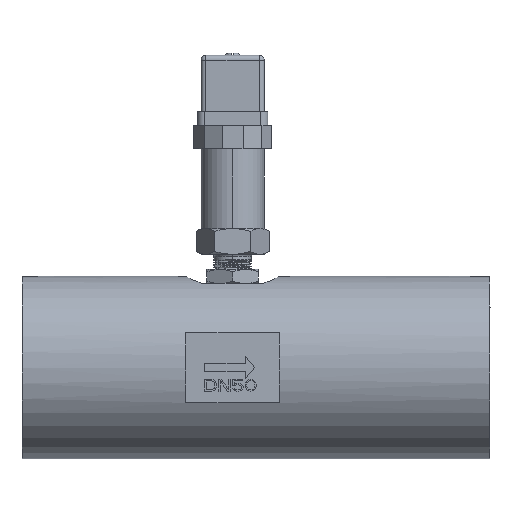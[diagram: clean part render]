
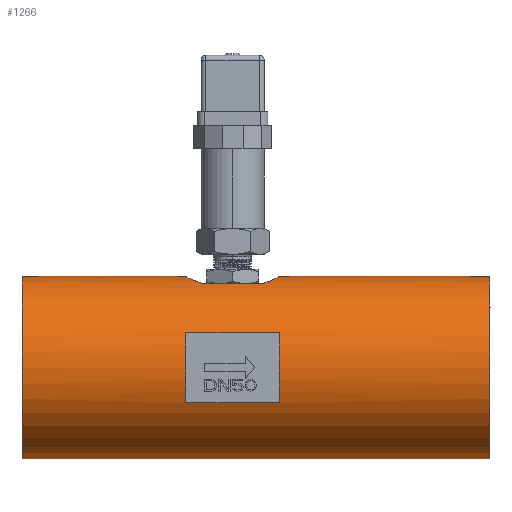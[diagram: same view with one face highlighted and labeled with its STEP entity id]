
A CAD part, left-side view. The second image highlights one B-rep face of the part: STEP entity #1266.
In plain terms, the highlighted cylindrical face has radius 39 mm (diameter 78 mm), a full revolution.
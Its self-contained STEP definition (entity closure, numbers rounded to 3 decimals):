
#212=B_SPLINE_CURVE_WITH_KNOTS('',3,(#17023,#17024,#17025,#17026,#17027,
#17028,#17029,#17030,#17031,#17032),.UNSPECIFIED.,.F.,.F.,(4,2,2,2,4),(0.,
0.25,0.5,0.75,1.),.UNSPECIFIED.);
#265=B_SPLINE_CURVE_WITH_KNOTS('',3,(#19977,#19978,#19979,#19980,#19981,
#19982,#19983,#19984,#19985,#19986),.UNSPECIFIED.,.F.,.F.,(4,2,2,2,4),(0.,
0.25,0.5,0.75,1.),.UNSPECIFIED.);
#409=CYLINDRICAL_SURFACE('',#10240,39.);
#1266=ADVANCED_FACE('',(#2040,#2041,#2042,#2043,#2044),#409,.T.);
#1970=CIRCLE('',#10233,39.);
#1971=CIRCLE('',#10235,39.);
#1972=CIRCLE('',#10236,39.);
#1973=CIRCLE('',#10237,39.);
#1974=CIRCLE('',#10238,39.);
#1975=CIRCLE('',#10239,39.);
#2040=FACE_BOUND('',#2462,.T.);
#2041=FACE_BOUND('',#2463,.T.);
#2042=FACE_BOUND('',#2464,.T.);
#2043=FACE_BOUND('',#2465,.T.);
#2044=FACE_BOUND('',#2466,.T.);
#2462=EDGE_LOOP('',(#4570));
#2463=EDGE_LOOP('',(#4571));
#2464=EDGE_LOOP('',(#4572,#4573,#4574,#4575));
#2465=EDGE_LOOP('',(#4576,#4577,#4578,#4579));
#2466=EDGE_LOOP('',(#4580,#4581,#4582,#4583));
#4570=ORIENTED_EDGE('',*,*,#7295,.T.);
#4571=ORIENTED_EDGE('',*,*,#7296,.T.);
#4572=ORIENTED_EDGE('',*,*,#7297,.F.);
#4573=ORIENTED_EDGE('',*,*,#7298,.T.);
#4574=ORIENTED_EDGE('',*,*,#7299,.F.);
#4575=ORIENTED_EDGE('',*,*,#7300,.T.);
#4576=ORIENTED_EDGE('',*,*,#7301,.T.);
#4577=ORIENTED_EDGE('',*,*,#7302,.F.);
#4578=ORIENTED_EDGE('',*,*,#7303,.T.);
#4579=ORIENTED_EDGE('',*,*,#7304,.F.);
#4580=ORIENTED_EDGE('',*,*,#7231,.F.);
#4581=ORIENTED_EDGE('',*,*,#7305,.F.);
#4582=ORIENTED_EDGE('',*,*,#7306,.T.);
#4583=ORIENTED_EDGE('',*,*,#7307,.F.);
#6002=VERTEX_POINT('',#17033);
#6003=VERTEX_POINT('',#17034);
#6046=VERTEX_POINT('',#19955);
#6047=VERTEX_POINT('',#19958);
#6048=VERTEX_POINT('',#19960);
#6049=VERTEX_POINT('',#19961);
#6050=VERTEX_POINT('',#19963);
#6051=VERTEX_POINT('',#19965);
#6052=VERTEX_POINT('',#19968);
#6053=VERTEX_POINT('',#19969);
#6054=VERTEX_POINT('',#19971);
#6055=VERTEX_POINT('',#19973);
#6056=VERTEX_POINT('',#19976);
#6057=VERTEX_POINT('',#19987);
#7231=EDGE_CURVE('',#6002,#6003,#212,.T.);
#7295=EDGE_CURVE('',#6046,#6046,#1970,.T.);
#7296=EDGE_CURVE('',#6047,#6047,#1971,.T.);
#7297=EDGE_CURVE('',#6048,#6049,#8324,.T.);
#7298=EDGE_CURVE('',#6048,#6050,#1972,.T.);
#7299=EDGE_CURVE('',#6051,#6050,#8325,.T.);
#7300=EDGE_CURVE('',#6051,#6049,#1973,.T.);
#7301=EDGE_CURVE('',#6052,#6053,#1974,.T.);
#7302=EDGE_CURVE('',#6054,#6053,#8326,.T.);
#7303=EDGE_CURVE('',#6054,#6055,#1975,.T.);
#7304=EDGE_CURVE('',#6052,#6055,#8327,.T.);
#7305=EDGE_CURVE('',#6056,#6002,#8328,.T.);
#7306=EDGE_CURVE('',#6056,#6057,#265,.T.);
#7307=EDGE_CURVE('',#6003,#6057,#8329,.T.);
#8324=LINE('',#19959,#9338);
#8325=LINE('',#19964,#9339);
#8326=LINE('',#19970,#9340);
#8327=LINE('',#19974,#9341);
#8328=LINE('',#19975,#9342);
#8329=LINE('',#19988,#9343);
#9338=VECTOR('',#12029,1.);
#9339=VECTOR('',#12032,1.);
#9340=VECTOR('',#12037,1.);
#9341=VECTOR('',#12040,1.);
#9342=VECTOR('',#12041,1.);
#9343=VECTOR('',#12042,1.);
#10233=AXIS2_PLACEMENT_3D('',#19954,#12023,#12024);
#10235=AXIS2_PLACEMENT_3D('',#19957,#12027,#12028);
#10236=AXIS2_PLACEMENT_3D('',#19962,#12030,#12031);
#10237=AXIS2_PLACEMENT_3D('',#19966,#12033,#12034);
#10238=AXIS2_PLACEMENT_3D('',#19967,#12035,#12036);
#10239=AXIS2_PLACEMENT_3D('',#19972,#12038,#12039);
#10240=AXIS2_PLACEMENT_3D('',#19989,#12043,#12044);
#12023=DIRECTION('',(0.,1.,0.));
#12024=DIRECTION('',(-1.,0.,0.));
#12027=DIRECTION('',(0.,-1.,0.));
#12028=DIRECTION('',(-1.,0.,0.));
#12029=DIRECTION('',(0.,-1.,0.));
#12030=DIRECTION('',(0.,1.,0.));
#12031=DIRECTION('',(1.,0.,0.));
#12032=DIRECTION('',(0.,1.,0.));
#12033=DIRECTION('',(0.,-1.,0.));
#12034=DIRECTION('',(0.923,0.,-0.385));
#12035=DIRECTION('',(0.,1.,0.));
#12036=DIRECTION('',(-0.923,0.,-0.385));
#12037=DIRECTION('',(0.,1.,0.));
#12038=DIRECTION('',(0.,-1.,0.));
#12039=DIRECTION('',(-1.,0.,0.));
#12040=DIRECTION('',(0.,-1.,0.));
#12041=DIRECTION('',(0.,-1.,0.));
#12042=DIRECTION('',(0.,1.,0.));
#12043=DIRECTION('',(0.,-1.,0.));
#12044=DIRECTION('',(1.,0.,0.));
#17023=CARTESIAN_POINT('',(10.5,23.171,-94.));
#17024=CARTESIAN_POINT('',(12.352,21.072,-93.228));
#17025=CARTESIAN_POINT('',(14.617,19.386,-92.458));
#17026=CARTESIAN_POINT('',(19.739,17.042,-91.339));
#17027=CARTESIAN_POINT('',(22.614,16.403,-91.002));
#17028=CARTESIAN_POINT('',(28.339,16.397,-90.998));
#17029=CARTESIAN_POINT('',(31.213,17.024,-91.33));
#17030=CARTESIAN_POINT('',(36.384,19.382,-92.456));
#17031=CARTESIAN_POINT('',(38.648,21.071,-93.228));
#17032=CARTESIAN_POINT('',(40.5,23.171,-94.));
#17033=CARTESIAN_POINT('',(10.5,23.171,-94.));
#17034=CARTESIAN_POINT('',(40.5,23.171,-94.));
#19954=CARTESIAN_POINT('',(25.5,-73.6,-130.));
#19955=CARTESIAN_POINT('',(-13.5,-73.6,-130.));
#19957=CARTESIAN_POINT('',(25.5,126.4,-130.));
#19958=CARTESIAN_POINT('',(-13.5,126.4,-130.));
#19959=CARTESIAN_POINT('',(61.5,56.4,-115.));
#19960=CARTESIAN_POINT('',(61.5,56.4,-115.));
#19961=CARTESIAN_POINT('',(61.5,16.4,-115.));
#19962=CARTESIAN_POINT('',(25.5,56.4,-130.));
#19963=CARTESIAN_POINT('',(61.5,56.4,-145.));
#19964=CARTESIAN_POINT('',(61.5,16.4,-145.));
#19965=CARTESIAN_POINT('',(61.5,16.4,-145.));
#19966=CARTESIAN_POINT('',(25.5,16.4,-130.));
#19967=CARTESIAN_POINT('',(25.5,56.4,-130.));
#19968=CARTESIAN_POINT('',(-10.5,56.4,-145.));
#19969=CARTESIAN_POINT('',(-10.5,56.4,-115.));
#19970=CARTESIAN_POINT('',(-10.5,16.4,-115.));
#19971=CARTESIAN_POINT('',(-10.5,16.4,-115.));
#19972=CARTESIAN_POINT('',(25.5,16.4,-130.));
#19973=CARTESIAN_POINT('',(-10.5,16.4,-145.));
#19974=CARTESIAN_POINT('',(-10.5,56.4,-145.));
#19975=CARTESIAN_POINT('',(10.5,49.629,-94.));
#19976=CARTESIAN_POINT('',(10.5,49.629,-94.));
#19977=CARTESIAN_POINT('',(10.5,49.629,-94.));
#19978=CARTESIAN_POINT('',(12.352,51.728,-93.228));
#19979=CARTESIAN_POINT('',(14.617,53.414,-92.458));
#19980=CARTESIAN_POINT('',(19.739,55.758,-91.339));
#19981=CARTESIAN_POINT('',(22.614,56.397,-91.002));
#19982=CARTESIAN_POINT('',(28.339,56.403,-90.998));
#19983=CARTESIAN_POINT('',(31.213,55.776,-91.33));
#19984=CARTESIAN_POINT('',(36.384,53.418,-92.456));
#19985=CARTESIAN_POINT('',(38.648,51.729,-93.228));
#19986=CARTESIAN_POINT('',(40.5,49.629,-94.));
#19987=CARTESIAN_POINT('',(40.5,49.629,-94.));
#19988=CARTESIAN_POINT('',(40.5,23.171,-94.));
#19989=CARTESIAN_POINT('',(25.5,136.4,-130.));
